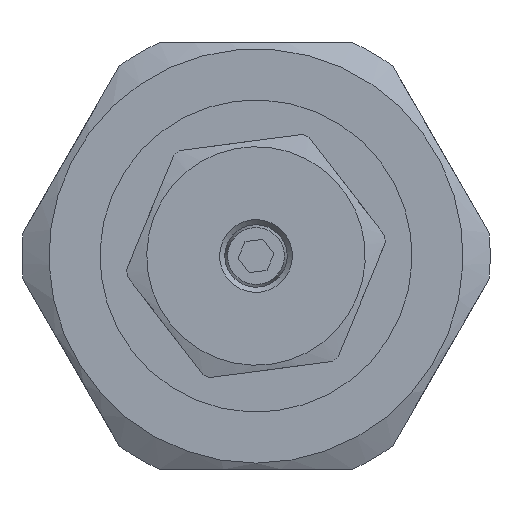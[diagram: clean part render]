
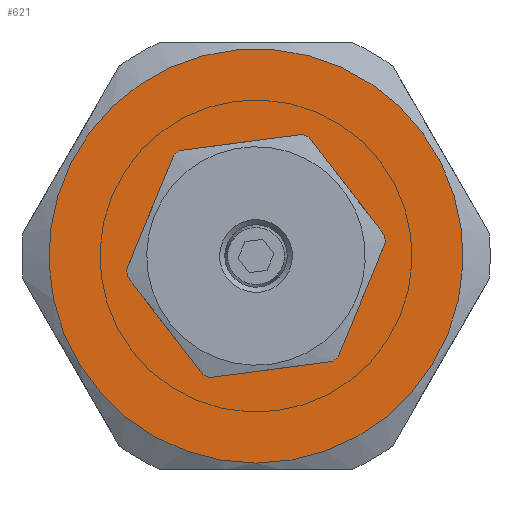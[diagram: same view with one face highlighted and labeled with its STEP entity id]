
A CAD part, left-side view. The second image highlights one B-rep face of the part: STEP entity #621.
In plain terms, the highlighted planar face has unit normal (-1, 0, 0).
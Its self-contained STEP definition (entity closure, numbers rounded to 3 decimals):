
#305=PLANE('',#2232);
#621=ADVANCED_FACE('',(#731),#305,.T.);
#731=FACE_OUTER_BOUND('',#921,.T.);
#921=EDGE_LOOP('',(#1443));
#1062=CIRCLE('',#2230,19.902);
#1443=ORIENTED_EDGE('',*,*,#1927,.F.);
#1703=VERTEX_POINT('',#4408);
#1927=EDGE_CURVE('',#1703,#1703,#1062,.T.);
#2230=AXIS2_PLACEMENT_3D('',#4407,#2735,#2736);
#2232=AXIS2_PLACEMENT_3D('',#4446,#2739,#2740);
#2735=DIRECTION('',(1.,0.,0.));
#2736=DIRECTION('',(0.,0.,-1.));
#2739=DIRECTION('',(-1.,0.,0.));
#2740=DIRECTION('',(0.,0.,-1.));
#4407=CARTESIAN_POINT('',(56.479,107.332,0.));
#4408=CARTESIAN_POINT('',(56.479,107.332,-19.902));
#4446=CARTESIAN_POINT('',(56.479,127.233,0.));
